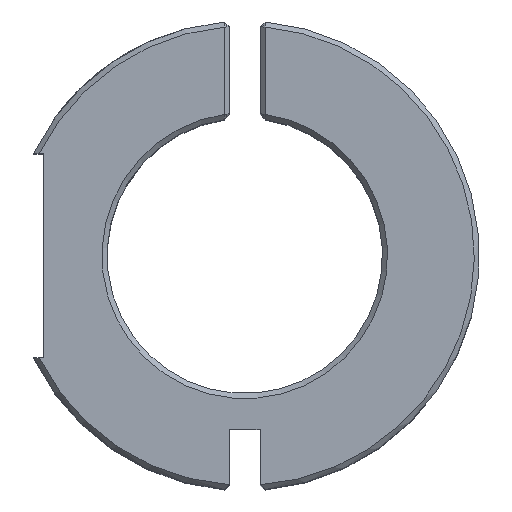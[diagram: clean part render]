
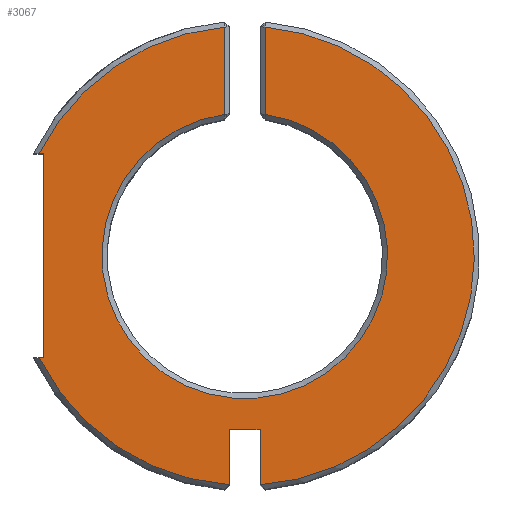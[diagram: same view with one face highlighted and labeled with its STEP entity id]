
A CAD part, top view. The second image highlights one B-rep face of the part: STEP entity #3067.
In plain terms, the highlighted planar face has unit normal (0, 0, 1).
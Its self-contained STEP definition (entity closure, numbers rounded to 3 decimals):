
#1505=CARTESIAN_POINT('',(21.25,-12.45,0.0));
#1506=VERTEX_POINT('',#1505);
#1513=CARTESIAN_POINT('',(21.25,-7.,0.0));
#1514=VERTEX_POINT('',#1513);
#1515=CARTESIAN_POINT('',(21.25,-7.,0.0));
#1516=DIRECTION('',(0.0,-1.0,0.0));
#1517=VECTOR('',#1516,5.45);
#1518=LINE('',#1515,#1517);
#1519=EDGE_CURVE('',#1514,#1506,#1518,.T.);
#1599=CARTESIAN_POINT('',(18.25,-12.45,0.0));
#1600=VERTEX_POINT('',#1599);
#1607=CARTESIAN_POINT('',(-0.406,0.0,0.0));
#1608=VERTEX_POINT('',#1607);
#1609=CARTESIAN_POINT('',(19.75,10.0,0.0));
#1610=DIRECTION('',(0.0,0.0,-1.));
#1611=DIRECTION('',(0.901,0.435,0.0));
#1612=AXIS2_PLACEMENT_3D('',#1609,#1610,#1611);
#1613=CIRCLE('',#1612,22.5);
#1614=EDGE_CURVE('',#1600,#1608,#1613,.T.);
#1663=CARTESIAN_POINT('',(18.25,-7.,0.0));
#1664=VERTEX_POINT('',#1663);
#1671=CARTESIAN_POINT('',(18.25,-12.45,0.0));
#1672=DIRECTION('',(0.0,1.0,0.0));
#1673=VECTOR('',#1672,5.45);
#1674=LINE('',#1671,#1673);
#1675=EDGE_CURVE('',#1600,#1664,#1674,.T.);
#1686=CARTESIAN_POINT('',(18.25,-7.,0.0));
#1687=DIRECTION('',(1.0,0.0,0.0));
#1688=VECTOR('',#1687,3.);
#1689=LINE('',#1686,#1688);
#1690=EDGE_CURVE('',#1664,#1514,#1689,.T.);
#1717=CARTESIAN_POINT('',(21.75,32.411,0.0));
#1718=VERTEX_POINT('',#1717);
#1729=CARTESIAN_POINT('',(19.75,10.0,0.0));
#1730=DIRECTION('',(0.0,0.0,-1.));
#1731=DIRECTION('',(0.901,0.435,0.0));
#1732=AXIS2_PLACEMENT_3D('',#1729,#1730,#1731);
#1733=CIRCLE('',#1732,22.5);
#1734=EDGE_CURVE('',#1718,#1506,#1733,.T.);
#2351=CARTESIAN_POINT('',(17.75,23.856,0.0));
#2352=VERTEX_POINT('',#2351);
#2466=CARTESIAN_POINT('',(21.75,23.856,0.0));
#2467=VERTEX_POINT('',#2466);
#2599=CARTESIAN_POINT('',(21.75,23.856,0.0));
#2600=DIRECTION('',(0.0,1.0,0.0));
#2601=VECTOR('',#2600,8.555);
#2602=LINE('',#2599,#2601);
#2603=EDGE_CURVE('',#2467,#1718,#2602,.T.);
#2685=CARTESIAN_POINT('',(19.75,10.0,0.0));
#2686=DIRECTION('',(0.0,0.0,1.0));
#2687=DIRECTION('',(-1.0,0.0,0.0));
#2688=AXIS2_PLACEMENT_3D('',#2685,#2686,#2687);
#2689=CIRCLE('',#2688,14.);
#2690=EDGE_CURVE('',#2352,#2467,#2689,.T.);
#2846=CARTESIAN_POINT('',(17.75,32.411,0.0));
#2847=VERTEX_POINT('',#2846);
#2876=CARTESIAN_POINT('',(17.75,32.411,0.0));
#2877=DIRECTION('',(0.0,-1.0,0.0));
#2878=VECTOR('',#2877,8.555);
#2879=LINE('',#2876,#2878);
#2880=EDGE_CURVE('',#2847,#2352,#2879,.T.);
#2924=CARTESIAN_POINT('',(-0.406,20.0,0.0));
#2925=VERTEX_POINT('',#2924);
#2939=CARTESIAN_POINT('',(19.75,10.0,0.0));
#2940=DIRECTION('',(0.0,0.0,-1.0));
#2941=DIRECTION('',(-0.065,0.998,0.0));
#2942=AXIS2_PLACEMENT_3D('',#2939,#2940,#2941);
#2943=CIRCLE('',#2942,22.5);
#2944=EDGE_CURVE('',#2925,#2847,#2943,.T.);
#3016=CARTESIAN_POINT('',(0.0,0.0,0.0));
#3017=VERTEX_POINT('',#3016);
#3018=CARTESIAN_POINT('',(0.0,0.0,0.0));
#3019=DIRECTION('',(-1.0,0.0,0.0));
#3020=VECTOR('',#3019,0.406);
#3021=LINE('',#3018,#3020);
#3022=EDGE_CURVE('',#3017,#1608,#3021,.T.);
#3036=CARTESIAN_POINT('',(19.198,11.838,0.0));
#3037=DIRECTION('',(0.0,0.0,1.0));
#3038=DIRECTION('',(1.0,0.0,0.0));
#3039=AXIS2_PLACEMENT_3D('',#3036,#3037,#3038);
#3040=PLANE('',#3039);
#3041=ORIENTED_EDGE('',*,*,#1519,.T.);
#3042=ORIENTED_EDGE('',*,*,#1734,.F.);
#3043=ORIENTED_EDGE('',*,*,#2603,.F.);
#3044=ORIENTED_EDGE('',*,*,#2690,.F.);
#3045=ORIENTED_EDGE('',*,*,#2880,.F.);
#3046=ORIENTED_EDGE('',*,*,#2944,.F.);
#3047=CARTESIAN_POINT('',(0.0,20.0,0.0));
#3048=VERTEX_POINT('',#3047);
#3049=CARTESIAN_POINT('',(-0.406,20.0,0.0));
#3050=DIRECTION('',(1.0,0.0,0.0));
#3051=VECTOR('',#3050,0.406);
#3052=LINE('',#3049,#3051);
#3053=EDGE_CURVE('',#2925,#3048,#3052,.T.);
#3054=ORIENTED_EDGE('',*,*,#3053,.T.);
#3055=CARTESIAN_POINT('',(0.0,20.0,0.0));
#3056=DIRECTION('',(0.0,-1.0,0.0));
#3057=VECTOR('',#3056,20.0);
#3058=LINE('',#3055,#3057);
#3059=EDGE_CURVE('',#3048,#3017,#3058,.T.);
#3060=ORIENTED_EDGE('',*,*,#3059,.T.);
#3061=ORIENTED_EDGE('',*,*,#3022,.T.);
#3062=ORIENTED_EDGE('',*,*,#1614,.F.);
#3063=ORIENTED_EDGE('',*,*,#1675,.T.);
#3064=ORIENTED_EDGE('',*,*,#1690,.T.);
#3065=EDGE_LOOP('',(#3041,#3042,#3043,#3044,#3045,#3046,#3054,#3060,#3061,#3062,#3063,#3064));
#3066=FACE_OUTER_BOUND('',#3065,.T.);
#3067=ADVANCED_FACE('',(#3066),#3040,.T.);
